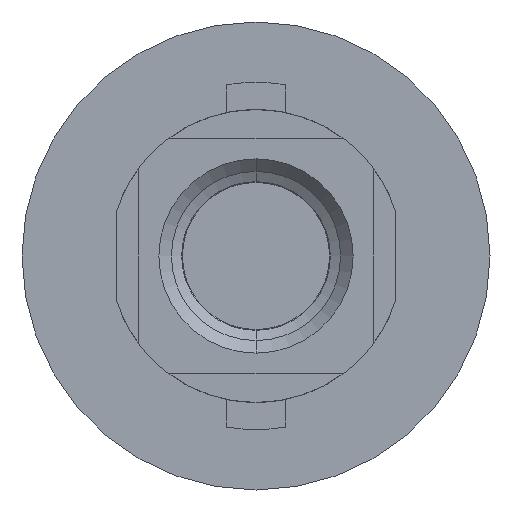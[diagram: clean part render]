
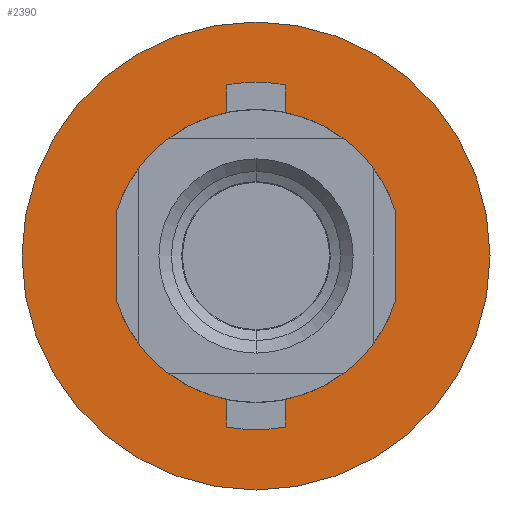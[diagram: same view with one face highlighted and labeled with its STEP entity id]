
A CAD part, front view. The second image highlights one B-rep face of the part: STEP entity #2390.
In plain terms, the highlighted planar face has unit normal (0, -1, 0).
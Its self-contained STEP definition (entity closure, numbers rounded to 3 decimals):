
#51 = VECTOR ( 'NONE', #1869, 1000. ) ;
#57 = DIRECTION ( 'NONE',  ( 0., 0., -1. ) ) ;
#67 = AXIS2_PLACEMENT_3D ( 'NONE', #2609, #2607, #2603 ) ;
#124 = VECTOR ( 'NONE', #2183, 1000. ) ;
#126 = LINE ( 'NONE', #2028, #381 ) ;
#144 = CIRCLE ( 'NONE', #67, 5.9 ) ;
#164 = EDGE_LOOP ( 'NONE', ( #893, #895 ) ) ;
#274 = AXIS2_PLACEMENT_3D ( 'NONE', #3236, #3241, #3250 ) ;
#301 = CIRCLE ( 'NONE', #382, 7.95 ) ;
#381 = VECTOR ( 'NONE', #2005, 1000. ) ;
#382 = AXIS2_PLACEMENT_3D ( 'NONE', #1879, #1503, #57 ) ;
#520 = VERTEX_POINT ( 'NONE', #1491 ) ;
#568 = FACE_BOUND ( 'NONE', #2599, .T. ) ;
#610 = VECTOR ( 'NONE', #2105, 1000. ) ;
#630 = AXIS2_PLACEMENT_3D ( 'NONE', #2457, #2458, #2462 ) ;
#703 = VERTEX_POINT ( 'NONE', #1855 ) ;
#757 = VERTEX_POINT ( 'NONE', #1956 ) ;
#787 = CARTESIAN_POINT ( 'NONE',  ( 4.75, 8.5, 1.479 ) ) ;
#811 = CIRCLE ( 'NONE', #2795, 4.975 ) ;
#824 = VECTOR ( 'NONE', #2335, 1000. ) ;
#861 = FACE_OUTER_BOUND ( 'NONE', #164, .T. ) ;
#893 = ORIENTED_EDGE ( 'NONE', *, *, #3361, .F. ) ;
#895 = ORIENTED_EDGE ( 'NONE', *, *, #1923, .F. ) ;
#897 = ORIENTED_EDGE ( 'NONE', *, *, #2922, .F. ) ;
#903 = ORIENTED_EDGE ( 'NONE', *, *, #3098, .T. ) ;
#911 = ORIENTED_EDGE ( 'NONE', *, *, #3306, .T. ) ;
#913 = ORIENTED_EDGE ( 'NONE', *, *, #3201, .T. ) ;
#926 = ORIENTED_EDGE ( 'NONE', *, *, #3288, .T. ) ;
#927 = CIRCLE ( 'NONE', #2778, 5.9 ) ;
#928 = ORIENTED_EDGE ( 'NONE', *, *, #3012, .T. ) ;
#939 = ORIENTED_EDGE ( 'NONE', *, *, #3262, .T. ) ;
#943 = ORIENTED_EDGE ( 'NONE', *, *, #3051, .T. ) ;
#947 = ORIENTED_EDGE ( 'NONE', *, *, #1407, .T. ) ;
#965 = VERTEX_POINT ( 'NONE', #1081 ) ;
#973 = CIRCLE ( 'NONE', #3431, 7.95 ) ;
#982 = ORIENTED_EDGE ( 'NONE', *, *, #3294, .T. ) ;
#987 = CIRCLE ( 'NONE', #630, 4.975 ) ;
#988 = VERTEX_POINT ( 'NONE', #2017 ) ;
#1007 = ORIENTED_EDGE ( 'NONE', *, *, #3346, .T. ) ;
#1010 = ORIENTED_EDGE ( 'NONE', *, *, #3118, .T. ) ;
#1026 = VERTEX_POINT ( 'NONE', #2125 ) ;
#1059 = ORIENTED_EDGE ( 'NONE', *, *, #3278, .F. ) ;
#1081 = CARTESIAN_POINT ( 'NONE',  ( -1., 8.5, 5.815 ) ) ;
#1298 = VERTEX_POINT ( 'NONE', #2372 ) ;
#1320 = VERTEX_POINT ( 'NONE', #2364 ) ;
#1324 = VERTEX_POINT ( 'NONE', #787 ) ;
#1328 = VERTEX_POINT ( 'NONE', #2377 ) ;
#1407 = EDGE_CURVE ( 'NONE', #2230, #520, #987, .T. ) ;
#1467 = CIRCLE ( 'NONE', #2751, 4.975 ) ;
#1491 = CARTESIAN_POINT ( 'NONE',  ( -4.75, 8.5, -1.479 ) ) ;
#1503 = DIRECTION ( 'NONE',  ( 0., 1., 0. ) ) ;
#1523 = LINE ( 'NONE', #2108, #610 ) ;
#1536 = VERTEX_POINT ( 'NONE', #3261 ) ;
#1701 = CIRCLE ( 'NONE', #2819, 5.9 ) ;
#1708 = DIRECTION ( 'NONE',  ( 0., 0., -1. ) ) ;
#1711 = DIRECTION ( 'NONE',  ( 0., 1., 0. ) ) ;
#1712 = CARTESIAN_POINT ( 'NONE',  ( 0., 8.5, 0. ) ) ;
#1727 = DIRECTION ( 'NONE',  ( 0., 0., -1. ) ) ;
#1732 = DIRECTION ( 'NONE',  ( 0., 1., 0. ) ) ;
#1735 = CARTESIAN_POINT ( 'NONE',  ( 0., 8.5, 0. ) ) ;
#1761 = DIRECTION ( 'NONE',  ( 0., 0., -1. ) ) ;
#1766 = DIRECTION ( 'NONE',  ( 0., 1., 0. ) ) ;
#1767 = CARTESIAN_POINT ( 'NONE',  ( 0., 8.5, 0. ) ) ;
#1811 = VECTOR ( 'NONE', #2447, 1000. ) ;
#1817 = DIRECTION ( 'NONE',  ( 0., 0., -1. ) ) ;
#1818 = DIRECTION ( 'NONE',  ( 0., 1., 0. ) ) ;
#1821 = CARTESIAN_POINT ( 'NONE',  ( 0., 8.5, 0. ) ) ;
#1822 = CARTESIAN_POINT ( 'NONE',  ( -4.75, 8.5, 0. ) ) ;
#1836 = DIRECTION ( 'NONE',  ( 0., 0., 1. ) ) ;
#1844 = DIRECTION ( 'NONE',  ( 0., -1., 0. ) ) ;
#1847 = CARTESIAN_POINT ( 'NONE',  ( 0., 8.5, 0. ) ) ;
#1855 = CARTESIAN_POINT ( 'NONE',  ( 0., 8.5, 5.9 ) ) ;
#1869 = DIRECTION ( 'NONE',  ( 0., 0., 1. ) ) ;
#1872 = DIRECTION ( 'NONE',  ( 0., 0., 1. ) ) ;
#1875 = DIRECTION ( 'NONE',  ( 0., 1., 0. ) ) ;
#1877 = CARTESIAN_POINT ( 'NONE',  ( 0., 8.5, 0. ) ) ;
#1879 = CARTESIAN_POINT ( 'NONE',  ( 0., 8.5, 0. ) ) ;
#1894 = CARTESIAN_POINT ( 'NONE',  ( 1., 8.5, -4.873 ) ) ;
#1923 = EDGE_CURVE ( 'NONE', #1536, #1320, #301, .T. ) ;
#1956 = CARTESIAN_POINT ( 'NONE',  ( 4.75, 8.5, -1.479 ) ) ;
#2005 = DIRECTION ( 'NONE',  ( 0., 0., -1. ) ) ;
#2017 = CARTESIAN_POINT ( 'NONE',  ( 1., 8.5, 5.815 ) ) ;
#2028 = CARTESIAN_POINT ( 'NONE',  ( 4.75, 8.5, 0. ) ) ;
#2036 = VERTEX_POINT ( 'NONE', #2846 ) ;
#2105 = DIRECTION ( 'NONE',  ( 0., 0., 1. ) ) ;
#2108 = CARTESIAN_POINT ( 'NONE',  ( -1., 8.5, 4.873 ) ) ;
#2125 = CARTESIAN_POINT ( 'NONE',  ( 1., 8.5, 4.873 ) ) ;
#2134 = LINE ( 'NONE', #1822, #51 ) ;
#2183 = DIRECTION ( 'NONE',  ( 0., 0., -1. ) ) ;
#2191 = CARTESIAN_POINT ( 'NONE',  ( 1., 8.5, 4.873 ) ) ;
#2230 = VERTEX_POINT ( 'NONE', #2586 ) ;
#2269 = CARTESIAN_POINT ( 'NONE',  ( -4.75, 8.5, 1.479 ) ) ;
#2328 = VERTEX_POINT ( 'NONE', #1894 ) ;
#2335 = DIRECTION ( 'NONE',  ( 0., 0., 1. ) ) ;
#2339 = CARTESIAN_POINT ( 'NONE',  ( -1., 8.5, -4.873 ) ) ;
#2364 = CARTESIAN_POINT ( 'NONE',  ( 0., 8.5, -7.95 ) ) ;
#2370 = VERTEX_POINT ( 'NONE', #2269 ) ;
#2372 = CARTESIAN_POINT ( 'NONE',  ( -1., 8.5, -5.815 ) ) ;
#2377 = CARTESIAN_POINT ( 'NONE',  ( 1., 8.5, -5.815 ) ) ;
#2390 = ADVANCED_FACE ( 'NONE', ( #861, #568 ), #2943, .T. ) ;
#2401 = CIRCLE ( 'NONE', #2702, 4.975 ) ;
#2440 = CARTESIAN_POINT ( 'NONE',  ( 1., 8.5, -4.873 ) ) ;
#2447 = DIRECTION ( 'NONE',  ( 0., 0., -1. ) ) ;
#2457 = CARTESIAN_POINT ( 'NONE',  ( 0., 8.5, 0. ) ) ;
#2458 = DIRECTION ( 'NONE',  ( 0., 1., 0. ) ) ;
#2462 = DIRECTION ( 'NONE',  ( 0., 0., -1. ) ) ;
#2586 = CARTESIAN_POINT ( 'NONE',  ( -1., 8.5, -4.873 ) ) ;
#2599 = EDGE_LOOP ( 'NONE', ( #897, #903, #911, #913, #926, #928, #939, #943, #947, #982, #1007, #1010, #1059 ) ) ;
#2603 = DIRECTION ( 'NONE',  ( 0., 0., 1. ) ) ;
#2607 = DIRECTION ( 'NONE',  ( 0., -1., 0. ) ) ;
#2609 = CARTESIAN_POINT ( 'NONE',  ( 0., 8.5, 0. ) ) ;
#2702 = AXIS2_PLACEMENT_3D ( 'NONE', #1735, #1732, #1727 ) ;
#2751 = AXIS2_PLACEMENT_3D ( 'NONE', #1767, #1766, #1761 ) ;
#2778 = AXIS2_PLACEMENT_3D ( 'NONE', #1847, #1844, #1836 ) ;
#2795 = AXIS2_PLACEMENT_3D ( 'NONE', #1821, #1818, #1817 ) ;
#2819 = AXIS2_PLACEMENT_3D ( 'NONE', #1877, #1875, #1872 ) ;
#2846 = CARTESIAN_POINT ( 'NONE',  ( -1., 8.5, 4.873 ) ) ;
#2922 = EDGE_CURVE ( 'NONE', #988, #703, #144, .T. ) ;
#2943 = PLANE ( 'NONE',  #274 ) ;
#3012 = EDGE_CURVE ( 'NONE', #2328, #1328, #3341, .T. ) ;
#3051 = EDGE_CURVE ( 'NONE', #1298, #2230, #3182, .T. ) ;
#3098 = EDGE_CURVE ( 'NONE', #988, #1026, #3245, .T. ) ;
#3118 = EDGE_CURVE ( 'NONE', #2036, #965, #1523, .T. ) ;
#3182 = LINE ( 'NONE', #2339, #824 ) ;
#3201 = EDGE_CURVE ( 'NONE', #1324, #757, #126, .T. ) ;
#3236 = CARTESIAN_POINT ( 'NONE',  ( 4.975, 8.5, 0. ) ) ;
#3241 = DIRECTION ( 'NONE',  ( 0., -1., 0. ) ) ;
#3245 = LINE ( 'NONE', #2191, #124 ) ;
#3250 = DIRECTION ( 'NONE',  ( 0., 0., -1. ) ) ;
#3261 = CARTESIAN_POINT ( 'NONE',  ( 0., 8.5, 7.95 ) ) ;
#3262 = EDGE_CURVE ( 'NONE', #1328, #1298, #1701, .T. ) ;
#3278 = EDGE_CURVE ( 'NONE', #703, #965, #927, .T. ) ;
#3288 = EDGE_CURVE ( 'NONE', #757, #2328, #811, .T. ) ;
#3294 = EDGE_CURVE ( 'NONE', #520, #2370, #2134, .T. ) ;
#3306 = EDGE_CURVE ( 'NONE', #1026, #1324, #1467, .T. ) ;
#3341 = LINE ( 'NONE', #2440, #1811 ) ;
#3346 = EDGE_CURVE ( 'NONE', #2370, #2036, #2401, .T. ) ;
#3361 = EDGE_CURVE ( 'NONE', #1320, #1536, #973, .T. ) ;
#3431 = AXIS2_PLACEMENT_3D ( 'NONE', #1712, #1711, #1708 ) ;
